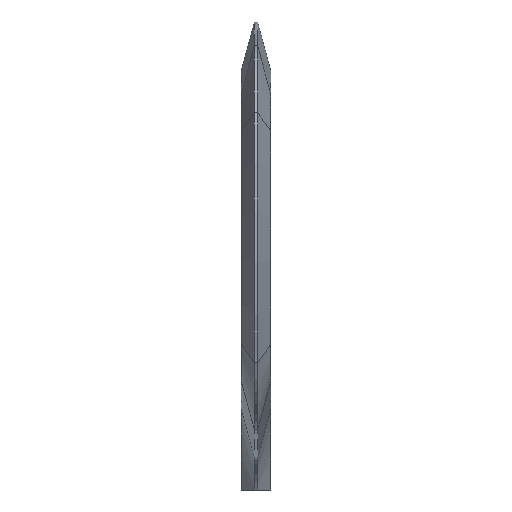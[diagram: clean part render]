
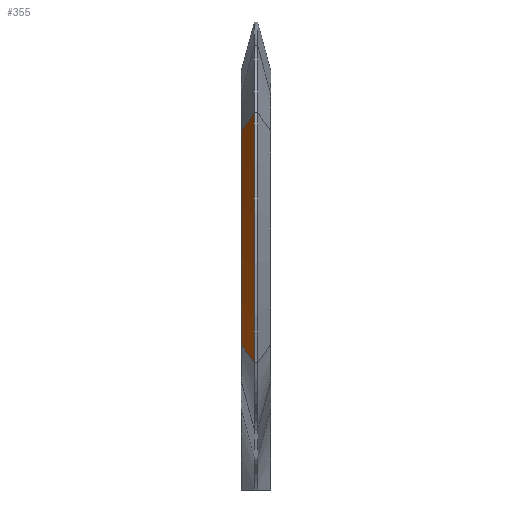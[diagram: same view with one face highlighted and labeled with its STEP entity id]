
A CAD part, left-side view. The second image highlights one B-rep face of the part: STEP entity #355.
In plain terms, the highlighted conical face has half-angle 75 degrees and reference radius 210.45 mm.
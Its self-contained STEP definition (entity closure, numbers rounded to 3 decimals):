
#14 = DIRECTION ( 'NONE',  ( 0., 0., -1. ) ) ;
#32 = CARTESIAN_POINT ( 'NONE',  ( -395.531, 10., -76.685 ) ) ;
#39 = CONICAL_SURFACE ( 'NONE', #1026, 210.45, 1.309 ) ;
#142 = CIRCLE ( 'NONE', #1894, 180.594 ) ;
#180 = ORIENTED_EDGE ( 'NONE', *, *, #362, .F. ) ;
#304 = CIRCLE ( 'NONE', #1663, 210.45 ) ;
#325 = VERTEX_POINT ( 'NONE', #1266 ) ;
#355 = ADVANCED_FACE ( 'NONE', ( #1483 ), #39, .T. ) ;
#361 = VECTOR ( 'NONE', #528, 1000. ) ;
#362 = EDGE_CURVE ( 'NONE', #1355, #2265, #1806, .T. ) ;
#528 = DIRECTION ( 'NONE',  ( 0.9, 0.259, 0.352 ) ) ;
#640 = VERTEX_POINT ( 'NONE', #1220 ) ;
#725 = LINE ( 'NONE', #1618, #1722 ) ;
#748 = DIRECTION ( 'NONE',  ( 0., -1., 0. ) ) ;
#825 = EDGE_CURVE ( 'NONE', #640, #1355, #304, .T. ) ;
#856 = ORIENTED_EDGE ( 'NONE', *, *, #825, .F. ) ;
#917 = ORIENTED_EDGE ( 'NONE', *, *, #1918, .T. ) ;
#980 = EDGE_LOOP ( 'NONE', ( #917, #2185, #180, #856 ) ) ;
#1026 = AXIS2_PLACEMENT_3D ( 'NONE', #1074, #748, #2235 ) ;
#1068 = DIRECTION ( 'NONE',  ( 0.9, 0.259, -0.352 ) ) ;
#1074 = CARTESIAN_POINT ( 'NONE',  ( -199.55, 10., 0. ) ) ;
#1220 = CARTESIAN_POINT ( 'NONE',  ( -395.531, 10., 76.685 ) ) ;
#1266 = CARTESIAN_POINT ( 'NONE',  ( -367.727, 18., 65.806 ) ) ;
#1355 = VERTEX_POINT ( 'NONE', #32 ) ;
#1483 = FACE_OUTER_BOUND ( 'NONE', #980, .T. ) ;
#1493 = CARTESIAN_POINT ( 'NONE',  ( -199.55, 10., 0. ) ) ;
#1618 = CARTESIAN_POINT ( 'NONE',  ( -395.531, 10., 76.685 ) ) ;
#1663 = AXIS2_PLACEMENT_3D ( 'NONE', #1493, #2257, #14 ) ;
#1692 = DIRECTION ( 'NONE',  ( 0., 0., -1. ) ) ;
#1722 = VECTOR ( 'NONE', #1068, 1000. ) ;
#1806 = LINE ( 'NONE', #2428, #361 ) ;
#1894 = AXIS2_PLACEMENT_3D ( 'NONE', #2432, #2421, #1692 ) ;
#1918 = EDGE_CURVE ( 'NONE', #640, #325, #725, .T. ) ;
#2059 = CARTESIAN_POINT ( 'NONE',  ( -367.727, 18., -65.806 ) ) ;
#2185 = ORIENTED_EDGE ( 'NONE', *, *, #2314, .F. ) ;
#2235 = DIRECTION ( 'NONE',  ( 0., 0., -1. ) ) ;
#2257 = DIRECTION ( 'NONE',  ( 0., -1., 0. ) ) ;
#2265 = VERTEX_POINT ( 'NONE', #2059 ) ;
#2314 = EDGE_CURVE ( 'NONE', #2265, #325, #142, .T. ) ;
#2421 = DIRECTION ( 'NONE',  ( 0., 1., 0. ) ) ;
#2428 = CARTESIAN_POINT ( 'NONE',  ( -395.531, 10., -76.685 ) ) ;
#2432 = CARTESIAN_POINT ( 'NONE',  ( -199.55, 18., 0. ) ) ;
